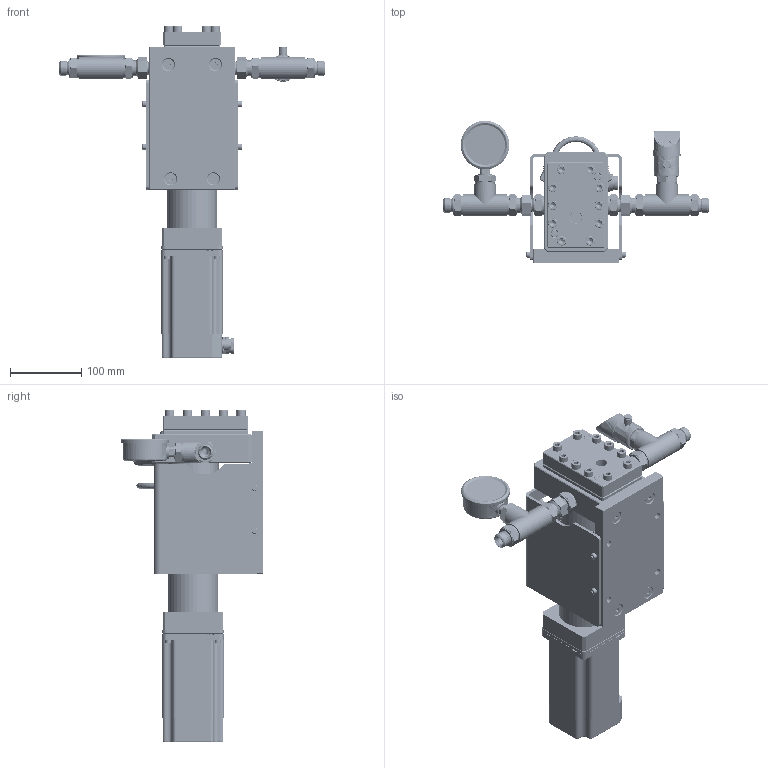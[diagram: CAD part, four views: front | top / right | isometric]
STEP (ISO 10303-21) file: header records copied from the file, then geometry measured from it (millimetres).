
FILE_DESCRIPTION (( 'STEP AP214' ), '1' );
FILE_NAME ('GP-2.STEP', '2024-10-11T10:25:55', ( '' ), ( '' ), 'SwSTEP 2.0', 'SolidWorks 2024', '' );
FILE_SCHEMA (( 'AUTOMOTIVE_DESIGN' ));
Length unit declared in the file: millimetre
Products named in the file (1): GP-2
Bounding box: 371.74 x 199.5 x 464.96 mm (x, y, z)
Volume: 3069681.5 mm3; surface area: 758382.3 mm2
Topology: 98 solids, 98 shells, 3551 faces, 8504 edges, 5364 vertices
Faces by surface type: plane 1730, cylinder 749, cone 600, bspline 434, torus 30, sphere 8
Full cylindrical faces by diameter (mm): 0.217 x1, 0.9 x8, 1.3 x8, 2 x11, 2.4 x5, 2.9 x4, 3 x27, 3.139 x1, 3.2 x4, 3.3 x5, 4 x2, 4.134 x4, 4.2 x8, 4.917 x4, 5 x33, 5.1 x1, 5.5 x12, 5.6 x8, 6 x13, 6.5 x4, 6.647 x20, 6.8 x2, 7 x2, 8 x28, 8.5 x16, 8.566 x2, 9 x34, 9.5 x4, 9.728 x2, 9.75 x1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
Entity records: 121833 total; most frequent: CARTESIAN_POINT 47554, ORIENTED_EDGE 14392, DIRECTION 13886, EDGE_CURVE 7196, AXIS2_PLACEMENT_3D 5362, VERTEX_POINT 4977, EDGE_LOOP 4961, FACE_OUTER_BOUND 4079
